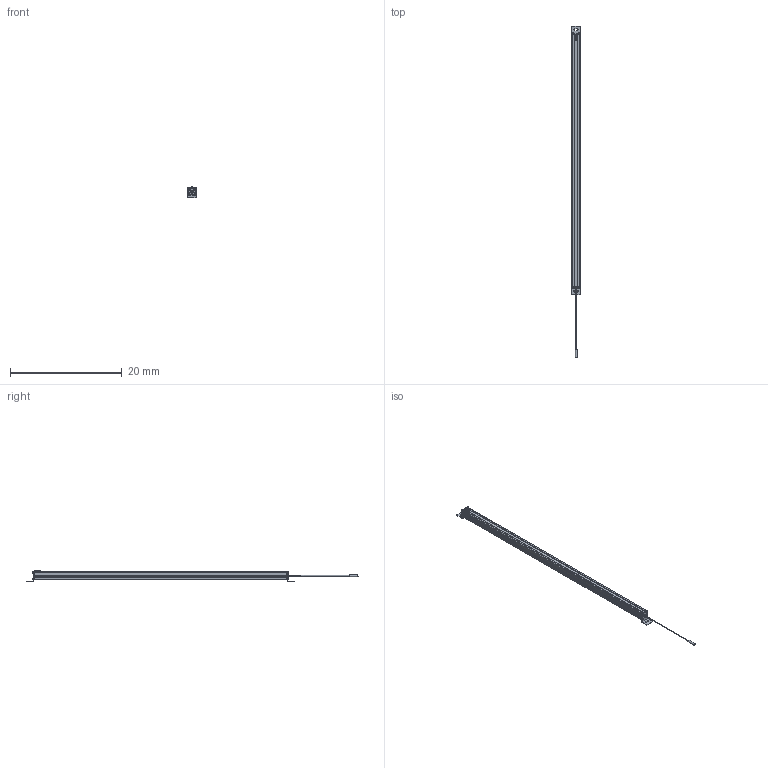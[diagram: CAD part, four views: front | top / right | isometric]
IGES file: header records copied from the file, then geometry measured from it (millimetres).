
Start section:  Autodesk DirectConnect version 7.0.27.0 ---- IGES version 5.3
Global section: file name: C:\ACADFILES\SS_PYLONS\CUSTOMER_FILES\SS-44-PYLON_3D_L.iges; native system: Autodesk DirectConnect 7.0.27.0; preprocessor: 7.0.27.0; author: ENGINEERMAIN; organization: Unknown; date: 20150810.125239; units: millimetre
Bounding box: 1.46 x 59.52 x 2.11 mm (x, y, z)
Surface area: 682.8 mm2 (no closed solid volume)
Topology: 0 solids, 0 shells, 475 faces, 2604 edges, 2623 vertices
Faces by surface type: bspline 475
